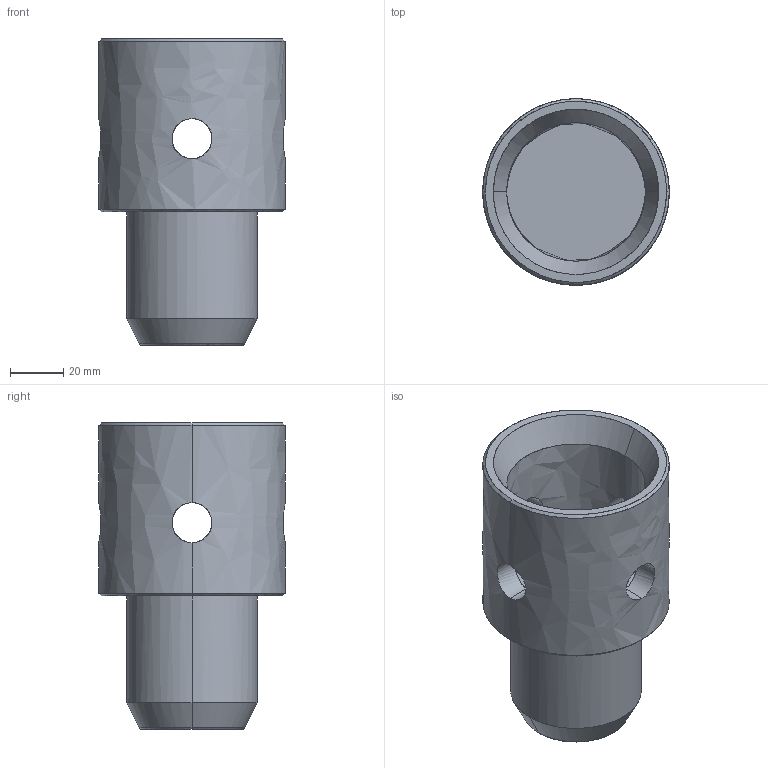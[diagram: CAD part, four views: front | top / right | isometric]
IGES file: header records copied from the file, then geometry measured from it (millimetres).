
Global section: file name: E:\UnigraphicsGraphicData\MISUMI_PRESS-PARTS\IGES\3d_kpb50_07046_r00.igs; native system: NX V5.0; preprocessor: UGS NX IGES V5.0; author: MISUMI; date: 20110105.161142; units: millimetre
Bounding box: 70 x 70 x 115 mm (x, y, z)
Surface area: 36943.1 mm2 (no closed solid volume)
Topology: 0 solids, 0 shells, 32 faces, 326 edges, 324 vertices
Faces by surface type: bspline 32
